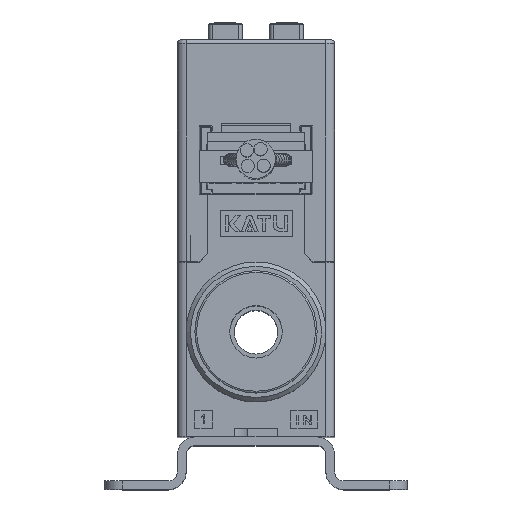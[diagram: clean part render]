
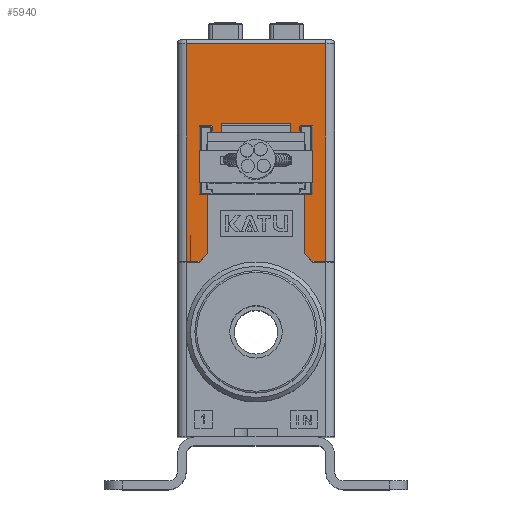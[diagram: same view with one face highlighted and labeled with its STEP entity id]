
A CAD part, top view. The second image highlights one B-rep face of the part: STEP entity #5940.
In plain terms, the highlighted planar face has unit normal (0, 0, 1).
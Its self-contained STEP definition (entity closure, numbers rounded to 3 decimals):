
#41=ELLIPSE('',#18077,0.1,0.1);
#42=ELLIPSE('',#18078,0.1,0.1);
#43=ELLIPSE('',#18079,0.1,0.1);
#44=ELLIPSE('',#18080,0.1,0.1);
#45=ELLIPSE('',#18081,0.1,0.1);
#1340=LINE('',#28031,#3044);
#1346=LINE('',#28045,#3050);
#1398=LINE('',#28154,#3102);
#1409=LINE('',#28176,#3113);
#1484=LINE('',#28376,#3188);
#1485=LINE('',#28379,#3189);
#1486=LINE('',#28381,#3190);
#1487=LINE('',#28383,#3191);
#1488=LINE('',#28384,#3192);
#1489=LINE('',#28385,#3193);
#1490=LINE('',#28387,#3194);
#1491=LINE('',#28391,#3195);
#1492=LINE('',#28394,#3196);
#1493=LINE('',#28397,#3197);
#1494=LINE('',#28401,#3198);
#1495=LINE('',#28405,#3199);
#1496=LINE('',#28406,#3200);
#1497=LINE('',#28407,#3201);
#3044=VECTOR('',#21520,1.);
#3050=VECTOR('',#21528,1.);
#3102=VECTOR('',#21596,1.);
#3113=VECTOR('',#21611,1.);
#3188=VECTOR('',#21788,1.);
#3189=VECTOR('',#21789,1.);
#3190=VECTOR('',#21790,1.);
#3191=VECTOR('',#21791,1.);
#3192=VECTOR('',#21792,1.);
#3193=VECTOR('',#21793,1.);
#3194=VECTOR('',#21794,1.);
#3195=VECTOR('',#21797,1.);
#3196=VECTOR('',#21800,1.);
#3197=VECTOR('',#21803,1.);
#3198=VECTOR('',#21806,1.);
#3199=VECTOR('',#21809,1.);
#3200=VECTOR('',#21810,1.);
#3201=VECTOR('',#21811,1.);
#4198=FACE_OUTER_BOUND('',#7486,.T.);
#5144=PLANE('',#18082);
#5940=ADVANCED_FACE('',(#4198),#5144,.F.);
#7486=EDGE_LOOP('',(#11226,#11227,#11228,#11229,#11230,#11231,#11232,#11233,
#11234,#11235,#11236,#11237,#11238,#11239,#11240,#11241,#11242,#11243,#11244,
#11245,#11246,#11247,#11248));
#11226=ORIENTED_EDGE('',*,*,#16032,.F.);
#11227=ORIENTED_EDGE('',*,*,#16033,.T.);
#11228=ORIENTED_EDGE('',*,*,#16034,.T.);
#11229=ORIENTED_EDGE('',*,*,#16035,.T.);
#11230=ORIENTED_EDGE('',*,*,#15868,.F.);
#11231=ORIENTED_EDGE('',*,*,#16036,.T.);
#11232=ORIENTED_EDGE('',*,*,#16037,.F.);
#11233=ORIENTED_EDGE('',*,*,#16038,.F.);
#11234=ORIENTED_EDGE('',*,*,#16039,.T.);
#11235=ORIENTED_EDGE('',*,*,#16040,.F.);
#11236=ORIENTED_EDGE('',*,*,#16041,.T.);
#11237=ORIENTED_EDGE('',*,*,#15933,.F.);
#11238=ORIENTED_EDGE('',*,*,#16042,.F.);
#11239=ORIENTED_EDGE('',*,*,#15922,.F.);
#11240=ORIENTED_EDGE('',*,*,#16043,.T.);
#11241=ORIENTED_EDGE('',*,*,#16044,.F.);
#11242=ORIENTED_EDGE('',*,*,#16045,.T.);
#11243=ORIENTED_EDGE('',*,*,#16046,.F.);
#11244=ORIENTED_EDGE('',*,*,#16047,.T.);
#11245=ORIENTED_EDGE('',*,*,#16048,.F.);
#11246=ORIENTED_EDGE('',*,*,#16049,.T.);
#11247=ORIENTED_EDGE('',*,*,#15862,.F.);
#11248=ORIENTED_EDGE('',*,*,#16050,.T.);
#13720=VERTEX_POINT('',#27993);
#13736=VERTEX_POINT('',#28026);
#13738=VERTEX_POINT('',#28032);
#13739=VERTEX_POINT('',#28033);
#13744=VERTEX_POINT('',#28044);
#13745=VERTEX_POINT('',#28046);
#13793=VERTEX_POINT('',#28153);
#13794=VERTEX_POINT('',#28155);
#13802=VERTEX_POINT('',#28175);
#13803=VERTEX_POINT('',#28177);
#13877=VERTEX_POINT('',#28377);
#13878=VERTEX_POINT('',#28378);
#13879=VERTEX_POINT('',#28380);
#13880=VERTEX_POINT('',#28382);
#13881=VERTEX_POINT('',#28386);
#13882=VERTEX_POINT('',#28388);
#13883=VERTEX_POINT('',#28390);
#13884=VERTEX_POINT('',#28392);
#13885=VERTEX_POINT('',#28396);
#13886=VERTEX_POINT('',#28398);
#13887=VERTEX_POINT('',#28400);
#13888=VERTEX_POINT('',#28402);
#13889=VERTEX_POINT('',#28404);
#15862=EDGE_CURVE('',#13738,#13739,#1340,.T.);
#15868=EDGE_CURVE('',#13744,#13745,#1346,.T.);
#15922=EDGE_CURVE('',#13793,#13794,#1398,.T.);
#15933=EDGE_CURVE('',#13802,#13803,#1409,.T.);
#16032=EDGE_CURVE('',#13877,#13878,#1484,.T.);
#16033=EDGE_CURVE('',#13877,#13879,#1485,.T.);
#16034=EDGE_CURVE('',#13879,#13880,#1486,.T.);
#16035=EDGE_CURVE('',#13880,#13745,#1487,.T.);
#16036=EDGE_CURVE('',#13744,#13736,#1488,.T.);
#16037=EDGE_CURVE('',#13881,#13736,#1489,.T.);
#16038=EDGE_CURVE('',#13882,#13881,#1490,.T.);
#16039=EDGE_CURVE('',#13882,#13883,#41,.T.);
#16040=EDGE_CURVE('',#13884,#13883,#1491,.T.);
#16041=EDGE_CURVE('',#13884,#13803,#42,.T.);
#16042=EDGE_CURVE('',#13794,#13802,#1492,.T.);
#16043=EDGE_CURVE('',#13793,#13885,#43,.T.);
#16044=EDGE_CURVE('',#13886,#13885,#1493,.T.);
#16045=EDGE_CURVE('',#13886,#13887,#44,.T.);
#16046=EDGE_CURVE('',#13888,#13887,#1494,.T.);
#16047=EDGE_CURVE('',#13888,#13889,#45,.T.);
#16048=EDGE_CURVE('',#13720,#13889,#1495,.T.);
#16049=EDGE_CURVE('',#13720,#13739,#1496,.T.);
#16050=EDGE_CURVE('',#13738,#13878,#1497,.T.);
#18077=AXIS2_PLACEMENT_3D('',#28389,#21795,#21796);
#18078=AXIS2_PLACEMENT_3D('',#28393,#21798,#21799);
#18079=AXIS2_PLACEMENT_3D('',#28395,#21801,#21802);
#18080=AXIS2_PLACEMENT_3D('',#28399,#21804,#21805);
#18081=AXIS2_PLACEMENT_3D('',#28403,#21807,#21808);
#18082=AXIS2_PLACEMENT_3D('',#28408,#21812,#21813);
#21520=DIRECTION('',(-0.707,0.707,0.));
#21528=DIRECTION('',(-0.707,-0.707,0.));
#21596=DIRECTION('',(0.,-1.,0.));
#21611=DIRECTION('',(0.,1.,0.));
#21788=DIRECTION('',(0.,-1.,0.));
#21789=DIRECTION('',(-1.,0.,0.));
#21790=DIRECTION('',(0.,-1.,0.));
#21791=DIRECTION('',(1.,0.,0.));
#21792=DIRECTION('',(0.,1.,0.));
#21793=DIRECTION('',(1.,0.,0.));
#21794=DIRECTION('',(0.,-1.,0.));
#21795=DIRECTION('',(0.,0.,-1.));
#21796=DIRECTION('',(-0.707,0.707,0.));
#21797=DIRECTION('',(-1.,0.,0.));
#21798=DIRECTION('',(0.,0.,-1.));
#21799=DIRECTION('',(0.707,0.707,0.));
#21800=DIRECTION('',(-1.,0.,0.));
#21801=DIRECTION('',(0.,0.,-1.));
#21802=DIRECTION('',(-0.707,0.707,0.));
#21803=DIRECTION('',(-1.,0.,0.));
#21804=DIRECTION('',(0.,0.,-1.));
#21805=DIRECTION('',(0.707,0.707,0.));
#21806=DIRECTION('',(0.,1.,0.));
#21807=DIRECTION('',(0.,0.,-1.));
#21808=DIRECTION('',(-1.,0.,0.));
#21809=DIRECTION('',(1.,0.,0.));
#21810=DIRECTION('',(0.,-1.,0.));
#21811=DIRECTION('',(1.,0.,0.));
#21812=DIRECTION('',(0.,0.,-1.));
#21813=DIRECTION('',(1.,0.,0.));
#27993=CARTESIAN_POINT('',(32.,16.8,-13.5));
#28026=CARTESIAN_POINT('',(21.,16.8,-13.5));
#28031=CARTESIAN_POINT('',(32.,10.,-13.5));
#28032=CARTESIAN_POINT('',(32.9,9.1,-13.5));
#28033=CARTESIAN_POINT('',(32.,10.,-13.5));
#28044=CARTESIAN_POINT('',(21.,10.,-13.5));
#28045=CARTESIAN_POINT('',(20.,9.,-13.5));
#28046=CARTESIAN_POINT('',(20.1,9.1,-13.5));
#28153=CARTESIAN_POINT('',(31.5,24.5,-13.5));
#28154=CARTESIAN_POINT('',(31.5,36.9,-13.5));
#28155=CARTESIAN_POINT('',(31.5,23.3,-13.5));
#28175=CARTESIAN_POINT('',(21.5,23.3,-13.5));
#28176=CARTESIAN_POINT('',(21.5,36.9,-13.5));
#28177=CARTESIAN_POINT('',(21.5,24.5,-13.5));
#28376=CARTESIAN_POINT('',(34.5,36.6,-13.5));
#28377=CARTESIAN_POINT('',(34.5,34.,-13.5));
#28378=CARTESIAN_POINT('',(34.5,9.1,-13.5));
#28379=CARTESIAN_POINT('',(18.5,34.,-13.5));
#28380=CARTESIAN_POINT('',(18.5,34.,-13.5));
#28381=CARTESIAN_POINT('',(18.5,36.6,-13.5));
#28382=CARTESIAN_POINT('',(18.5,9.1,-13.5));
#28383=CARTESIAN_POINT('',(33.,9.1,-13.5));
#28384=CARTESIAN_POINT('',(21.,21.25,-13.5));
#28385=CARTESIAN_POINT('',(21.,16.8,-13.5));
#28386=CARTESIAN_POINT('',(20.,16.8,-13.5));
#28387=CARTESIAN_POINT('',(20.,36.6,-13.5));
#28388=CARTESIAN_POINT('',(20.,24.5,-13.5));
#28389=CARTESIAN_POINT('',(20.1,24.5,-13.5));
#28390=CARTESIAN_POINT('',(20.1,24.6,-13.5));
#28391=CARTESIAN_POINT('',(33.,24.6,-13.5));
#28392=CARTESIAN_POINT('',(21.4,24.6,-13.5));
#28393=CARTESIAN_POINT('',(21.4,24.5,-13.5));
#28394=CARTESIAN_POINT('',(33.,23.3,-13.5));
#28395=CARTESIAN_POINT('',(31.6,24.5,-13.5));
#28396=CARTESIAN_POINT('',(31.6,24.6,-13.5));
#28397=CARTESIAN_POINT('',(33.,24.6,-13.5));
#28398=CARTESIAN_POINT('',(32.9,24.6,-13.5));
#28399=CARTESIAN_POINT('',(32.9,24.5,-13.5));
#28400=CARTESIAN_POINT('',(33.,24.5,-13.5));
#28401=CARTESIAN_POINT('',(33.,36.6,-13.5));
#28402=CARTESIAN_POINT('',(33.,16.9,-13.5));
#28403=CARTESIAN_POINT('',(32.9,16.9,-13.5));
#28404=CARTESIAN_POINT('',(32.9,16.8,-13.5));
#28405=CARTESIAN_POINT('',(32.,16.8,-13.5));
#28406=CARTESIAN_POINT('',(32.,36.6,-13.5));
#28407=CARTESIAN_POINT('',(33.,9.1,-13.5));
#28408=CARTESIAN_POINT('',(33.,36.6,-13.5));
